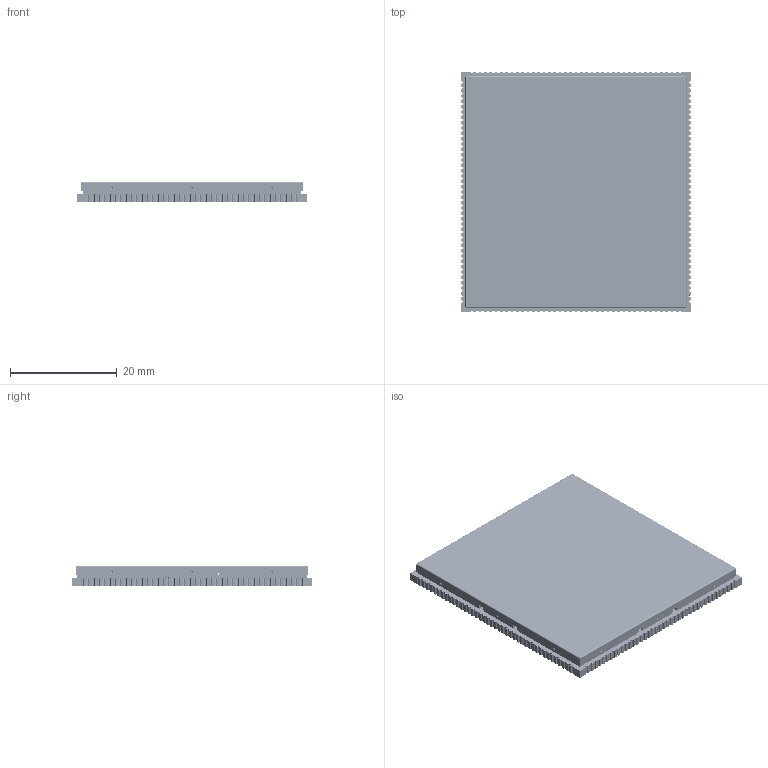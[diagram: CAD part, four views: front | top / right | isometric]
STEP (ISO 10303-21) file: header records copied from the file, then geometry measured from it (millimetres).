
FILE_DESCRIPTION((''),'2;1');
FILE_NAME('MYC-YM62LX_V10-20250522_ASM','2025-10-28T16:47:41',('MYIR'),(''),'CREO PARAMETRIC BY PTC INC, 2023073','CREO PARAMETRIC BY PTC INC, 2023073','');
FILE_SCHEMA(('AUTOMOTIVE_DESIGN { 1 0 10303 214 1 1 1 1 }'));
Products named in the file (54): MYC-YM62LX_V10-20250522-TOP; MYC-YM62LX_V10-20250522; 20103-00134; 20701-00054; 20401-80102; 20501-00056; 20301-80390; 20301-00203; R0402; 20103-00069; 20401-00103; 20401-80346; C0603; 20401-00104; 20401-80262; 20401-80445; 20501-00026; 20301-80580; 20301-80673; R0201; 20301-80650; 20301-00358; 20301-00207; 20301-00191; 20301-80671; 20301-00248; 20301-00192; 20301-00204; 20102-00186; 20103-80335; 20101-00107; 20102-00146; 20102-80010; 20105-00034; 20901-00022; 20301-00276; 20401-00101; 20901-00018; 20601-80007; 20301-80393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
Assembly tree (276 placements, depth 3):
  MYC-YM62LX_V10-20250522_ASM
    MYC-YM62LX_V10-20250522-TOP
    MYC-YM62LX_V10-20250522
    20103-00134
    20701-00054
    20401-80102
    20501-00056
    20301-80390
    20301-00203
    R0402  x14
    20103-00069
    20401-00103  x10
    20401-80346  x33
    C0603  x2
    20401-00104  x10
    20401-80262  x2
    20401-80445  x5
    20501-00026  x3
    20301-80580  x5
    20301-80673  x21
    R0201  x12
    20301-80650  x4
    20301-00358  x2
    20301-00207
    20301-00191
    20301-80671  x18
    20301-00248  x2
    20301-00192  x2
    20301-00204  x2
    20102-00186
    20103-80335  x2
    20101-00107
    20102-00146
    20102-80010
    20105-00034
    20901-00022
    20301-00276  x3
    20401-00101  x2
    20901-00018
    20601-80007  x2
    20301-80393
    20301-00250  x3
    20301-00286  x2
    20401-80188  x54
    20401-80101  x4
    C0402  x6
    20401-80103  x14
    20401-00100  x8
    20401-00077  x2
    20301-00210
    20301-00186  x4
    MYC-YM62LX-SHIELD-A-V01_ASM
      MYC-YM62LX-SHIELD-FRAME-A-V01
      MYC-YM62LX-SHIELD-COVER-A-V01
Bounding box: 43 x 45 x 3.8 mm (x, y, z)
Volume: 4185.8 mm3; surface area: 12265.8 mm2
Topology: 274 solids, 370 shells, 7940 faces, 28729 edges, 23548 vertices
Faces by surface type: plane 6130, sphere 1484, cylinder 326
Entity records: 264086 total; most frequent: DIRECTION 37290, CARTESIAN_POINT 33864, ORIENTED_EDGE 24100, PRESENTATION_STYLE_ASSIGNMENT 14659, STYLED_ITEM 14489, CURVE_STYLE 13253, VECTOR 12397, LINE 12397
